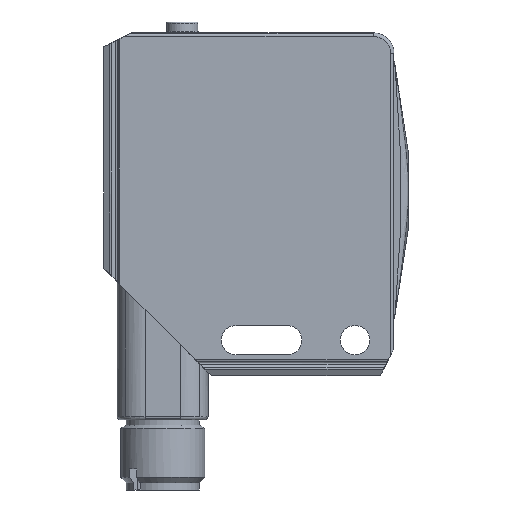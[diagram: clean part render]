
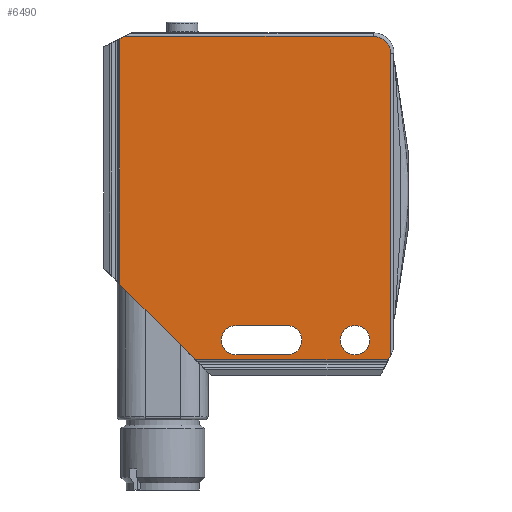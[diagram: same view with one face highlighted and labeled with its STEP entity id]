
A CAD part, front view. The second image highlights one B-rep face of the part: STEP entity #6490.
In plain terms, the highlighted planar face has unit normal (0, -1, 0).
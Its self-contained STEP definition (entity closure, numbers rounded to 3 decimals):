
#264=CARTESIAN_POINT('',(29.6,-7.5,-1.9));
#265=VERTEX_POINT('',#264);
#281=CARTESIAN_POINT('',(25.4,-7.5,-1.9));
#282=VERTEX_POINT('',#281);
#289=CARTESIAN_POINT('',(27.5,-7.5,-1.9));
#290=DIRECTION('',(0.0,1.0,0.0));
#291=DIRECTION('',(1.0,0.0,0.0));
#292=AXIS2_PLACEMENT_3D('',#289,#290,#291);
#293=CIRCLE('',#292,2.1);
#294=EDGE_CURVE('',#265,#282,#293,.T.);
#646=CARTESIAN_POINT('',(-5.4,-7.5,41.5));
#647=VERTEX_POINT('',#646);
#655=CARTESIAN_POINT('',(30.1,-7.5,41.5));
#656=VERTEX_POINT('',#655);
#657=CARTESIAN_POINT('',(-5.4,-7.5,41.5));
#658=DIRECTION('',(1.0,0.0,0.0));
#659=VECTOR('',#658,35.5);
#660=LINE('',#657,#659);
#661=EDGE_CURVE('',#647,#656,#660,.T.);
#1811=CARTESIAN_POINT('',(32.6,-7.5,39.0));
#1812=VERTEX_POINT('',#1811);
#1820=CARTESIAN_POINT('',(32.6,-7.5,-4.));
#1821=VERTEX_POINT('',#1820);
#1822=CARTESIAN_POINT('',(32.6,-7.5,39.0));
#1823=DIRECTION('',(0.0,0.0,-1.0));
#1824=VECTOR('',#1823,43.0);
#1825=LINE('',#1822,#1824);
#1826=EDGE_CURVE('',#1812,#1821,#1825,.T.);
#3708=CARTESIAN_POINT('',(32.25,-7.5,-4.7));
#3709=VERTEX_POINT('',#3708);
#3710=CARTESIAN_POINT('',(32.6,-7.5,-4.));
#3711=DIRECTION('',(-0.447,0.0,-0.894));
#3712=VECTOR('',#3711,0.783);
#3713=LINE('',#3710,#3712);
#3714=EDGE_CURVE('',#1821,#3709,#3713,.T.);
#4123=CARTESIAN_POINT('',(4.7,-7.5,-4.7));
#4124=VERTEX_POINT('',#4123);
#4132=CARTESIAN_POINT('',(-6.1,-7.5,6.1));
#4133=VERTEX_POINT('',#4132);
#4134=CARTESIAN_POINT('',(4.7,-7.5,-4.7));
#4135=DIRECTION('',(-0.707,0.0,0.707));
#4136=VECTOR('',#4135,15.274);
#4137=LINE('',#4134,#4136);
#4138=EDGE_CURVE('',#4124,#4133,#4137,.T.);
#4242=CARTESIAN_POINT('',(-6.1,-7.5,41.15));
#4243=VERTEX_POINT('',#4242);
#4244=CARTESIAN_POINT('',(-6.1,-7.5,6.1));
#4245=DIRECTION('',(0.0,0.0,1.0));
#4246=VECTOR('',#4245,35.05);
#4247=LINE('',#4244,#4246);
#4248=EDGE_CURVE('',#4133,#4243,#4247,.T.);
#4516=CARTESIAN_POINT('',(-6.1,-7.5,41.15));
#4517=DIRECTION('',(0.894,0.0,0.447));
#4518=VECTOR('',#4517,0.783);
#4519=LINE('',#4516,#4518);
#4520=EDGE_CURVE('',#4243,#647,#4519,.T.);
#5610=CARTESIAN_POINT('',(30.1,-7.5,39.0));
#5611=DIRECTION('',(0.0,1.,0.0));
#5612=DIRECTION('',(0.707,0.0,0.707));
#5613=AXIS2_PLACEMENT_3D('',#5610,#5611,#5612);
#5614=CIRCLE('',#5613,2.5);
#5615=EDGE_CURVE('',#656,#1812,#5614,.T.);
#6117=CARTESIAN_POINT('',(32.25,-7.5,-4.7));
#6118=DIRECTION('',(-1.0,0.0,0.0));
#6119=VECTOR('',#6118,27.55);
#6120=LINE('',#6117,#6119);
#6121=EDGE_CURVE('',#3709,#4124,#6120,.T.);
#6351=CARTESIAN_POINT('',(10.5,-7.5,-4.));
#6352=VERTEX_POINT('',#6351);
#6359=CARTESIAN_POINT('',(17.8,-7.5,-4.));
#6360=VERTEX_POINT('',#6359);
#6361=CARTESIAN_POINT('',(17.8,-7.5,-4.));
#6362=DIRECTION('',(-1.0,0.0,0.0));
#6363=VECTOR('',#6362,7.3);
#6364=LINE('',#6361,#6363);
#6365=EDGE_CURVE('',#6360,#6352,#6364,.T.);
#6387=CARTESIAN_POINT('',(17.8,-7.5,0.2));
#6388=VERTEX_POINT('',#6387);
#6389=CARTESIAN_POINT('',(17.8,-7.5,-1.9));
#6390=DIRECTION('',(0.0,1.0,0.0));
#6391=DIRECTION('',(0.0,0.0,-1.0));
#6392=AXIS2_PLACEMENT_3D('',#6389,#6390,#6391);
#6393=CIRCLE('',#6392,2.1);
#6394=EDGE_CURVE('',#6388,#6360,#6393,.T.);
#6412=CARTESIAN_POINT('',(10.5,-7.5,0.2));
#6413=VERTEX_POINT('',#6412);
#6414=CARTESIAN_POINT('',(10.5,-7.5,0.2));
#6415=DIRECTION('',(1.0,0.0,0.0));
#6416=VECTOR('',#6415,7.3);
#6417=LINE('',#6414,#6416);
#6418=EDGE_CURVE('',#6413,#6388,#6417,.T.);
#6436=CARTESIAN_POINT('',(10.5,-7.5,-1.9));
#6437=DIRECTION('',(0.0,1.0,0.0));
#6438=DIRECTION('',(0.0,0.0,1.0));
#6439=AXIS2_PLACEMENT_3D('',#6436,#6437,#6438);
#6440=CIRCLE('',#6439,2.1);
#6441=EDGE_CURVE('',#6352,#6413,#6440,.T.);
#6453=CARTESIAN_POINT('',(27.5,-7.5,-1.9));
#6454=DIRECTION('',(0.0,1.0,0.0));
#6455=DIRECTION('',(1.0,0.0,0.0));
#6456=AXIS2_PLACEMENT_3D('',#6453,#6454,#6455);
#6457=CIRCLE('',#6456,2.1);
#6458=EDGE_CURVE('',#282,#265,#6457,.T.);
#6465=CARTESIAN_POINT('',(13.586,-7.5,18.909));
#6466=DIRECTION('',(0.0,1.0,0.0));
#6467=DIRECTION('',(0.0,0.0,1.0));
#6468=AXIS2_PLACEMENT_3D('',#6465,#6466,#6467);
#6469=PLANE('',#6468);
#6470=ORIENTED_EDGE('',*,*,#4248,.F.);
#6471=ORIENTED_EDGE('',*,*,#4138,.F.);
#6472=ORIENTED_EDGE('',*,*,#6121,.F.);
#6473=ORIENTED_EDGE('',*,*,#3714,.F.);
#6474=ORIENTED_EDGE('',*,*,#1826,.F.);
#6475=ORIENTED_EDGE('',*,*,#5615,.F.);
#6476=ORIENTED_EDGE('',*,*,#661,.F.);
#6477=ORIENTED_EDGE('',*,*,#4520,.F.);
#6478=EDGE_LOOP('',(#6470,#6471,#6472,#6473,#6474,#6475,#6476,#6477));
#6479=FACE_OUTER_BOUND('',#6478,.T.);
#6480=ORIENTED_EDGE('',*,*,#6365,.T.);
#6481=ORIENTED_EDGE('',*,*,#6441,.T.);
#6482=ORIENTED_EDGE('',*,*,#6418,.T.);
#6483=ORIENTED_EDGE('',*,*,#6394,.T.);
#6484=EDGE_LOOP('',(#6480,#6481,#6482,#6483));
#6485=FACE_BOUND('',#6484,.T.);
#6486=ORIENTED_EDGE('',*,*,#6458,.T.);
#6487=ORIENTED_EDGE('',*,*,#294,.T.);
#6488=EDGE_LOOP('',(#6486,#6487));
#6489=FACE_BOUND('',#6488,.T.);
#6490=ADVANCED_FACE('',(#6479,#6485,#6489),#6469,.F.);
